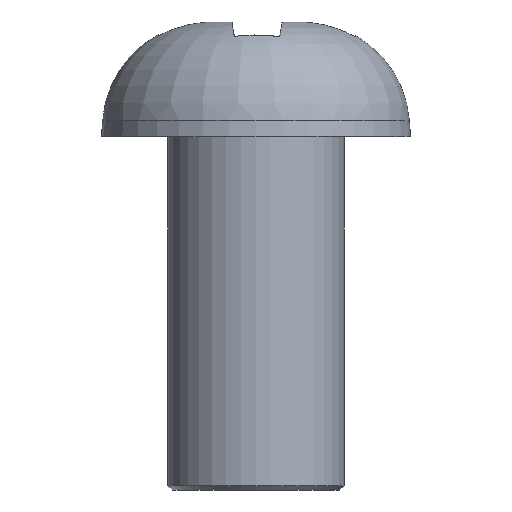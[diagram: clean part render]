
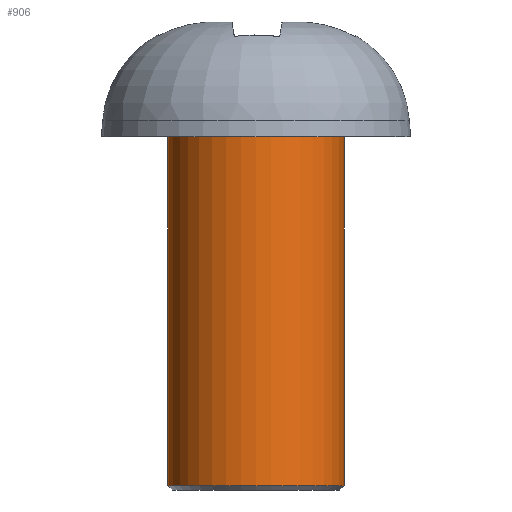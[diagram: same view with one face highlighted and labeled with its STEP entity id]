
A CAD part, front view. The second image highlights one B-rep face of the part: STEP entity #906.
In plain terms, the highlighted cylindrical face has radius 2 mm (diameter 4 mm), a partial arc.
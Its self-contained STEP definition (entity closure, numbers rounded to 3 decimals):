
#103 = CARTESIAN_POINT ( 'NONE',  ( -2., 0., -8. ) ) ;
#127 = DIRECTION ( 'NONE',  ( 0., 0., 1. ) ) ;
#150 = EDGE_CURVE ( 'NONE', #471, #320, #535, .T. ) ;
#154 = VECTOR ( 'NONE', #819, 1000. ) ;
#196 = AXIS2_PLACEMENT_3D ( 'NONE', #556, #201, #831 ) ;
#201 = DIRECTION ( 'NONE',  ( 0., 0., 1. ) ) ;
#207 = DIRECTION ( 'NONE',  ( 1., 0., 0. ) ) ;
#210 = CARTESIAN_POINT ( 'NONE',  ( 2., 0., 0. ) ) ;
#220 = EDGE_CURVE ( 'NONE', #772, #258, #727, .T. ) ;
#225 = DIRECTION ( 'NONE',  ( 0., 0., 1. ) ) ;
#231 = CARTESIAN_POINT ( 'NONE',  ( 2., 0., -7.9 ) ) ;
#258 = VERTEX_POINT ( 'NONE', #210 ) ;
#297 = DIRECTION ( 'NONE',  ( 1., 0., 0. ) ) ;
#320 = VERTEX_POINT ( 'NONE', #483 ) ;
#376 = EDGE_CURVE ( 'NONE', #471, #772, #683, .T. ) ;
#378 = CARTESIAN_POINT ( 'NONE',  ( 0., 0., -8. ) ) ;
#436 = AXIS2_PLACEMENT_3D ( 'NONE', #836, #127, #207 ) ;
#437 = FACE_OUTER_BOUND ( 'NONE', #607, .T. ) ;
#471 = VERTEX_POINT ( 'NONE', #718 ) ;
#475 = EDGE_CURVE ( 'NONE', #320, #258, #597, .T. ) ;
#483 = CARTESIAN_POINT ( 'NONE',  ( -2., 0., 0. ) ) ;
#524 = CARTESIAN_POINT ( 'NONE',  ( 2., 0., -8. ) ) ;
#528 = AXIS2_PLACEMENT_3D ( 'NONE', #378, #225, #297 ) ;
#535 = LINE ( 'NONE', #103, #154 ) ;
#556 = CARTESIAN_POINT ( 'NONE',  ( 0., 0., -7.9 ) ) ;
#593 = CYLINDRICAL_SURFACE ( 'NONE', #528, 2. ) ;
#597 = CIRCLE ( 'NONE', #436, 2. ) ;
#602 = DIRECTION ( 'NONE',  ( 0., 0., 1. ) ) ;
#607 = EDGE_LOOP ( 'NONE', ( #645, #668, #609, #888 ) ) ;
#609 = ORIENTED_EDGE ( 'NONE', *, *, #220, .T. ) ;
#645 = ORIENTED_EDGE ( 'NONE', *, *, #150, .F. ) ;
#668 = ORIENTED_EDGE ( 'NONE', *, *, #376, .T. ) ;
#683 = CIRCLE ( 'NONE', #196, 2. ) ;
#718 = CARTESIAN_POINT ( 'NONE',  ( -2., 0., -7.9 ) ) ;
#727 = LINE ( 'NONE', #524, #740 ) ;
#740 = VECTOR ( 'NONE', #602, 1000. ) ;
#772 = VERTEX_POINT ( 'NONE', #231 ) ;
#819 = DIRECTION ( 'NONE',  ( 0., 0., 1. ) ) ;
#831 = DIRECTION ( 'NONE',  ( 1., 0., 0. ) ) ;
#836 = CARTESIAN_POINT ( 'NONE',  ( 0., 0., 0. ) ) ;
#888 = ORIENTED_EDGE ( 'NONE', *, *, #475, .F. ) ;
#906 = ADVANCED_FACE ( 'NONE', ( #437 ), #593, .T. ) ;
